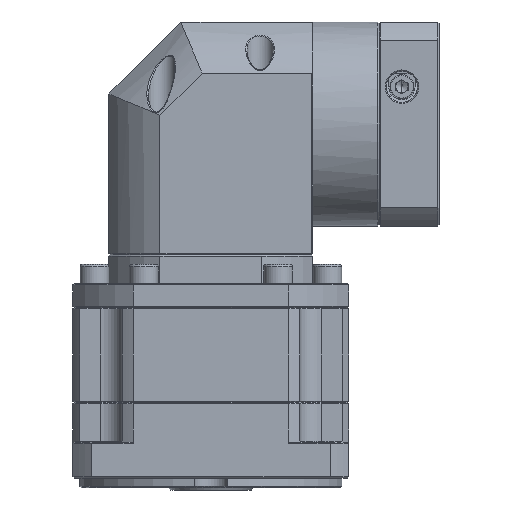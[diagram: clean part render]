
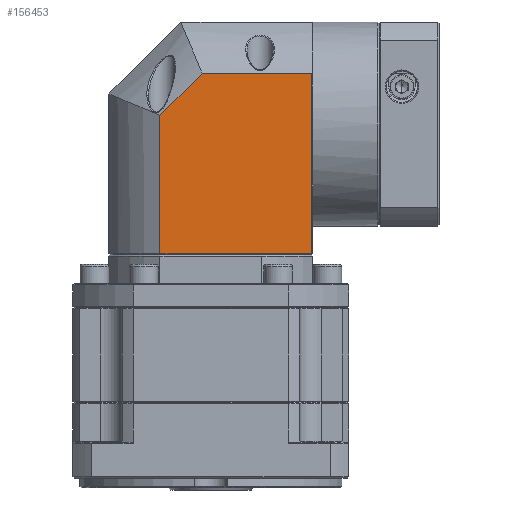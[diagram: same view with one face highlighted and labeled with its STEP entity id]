
A CAD part, front view. The second image highlights one B-rep face of the part: STEP entity #156453.
In plain terms, the highlighted planar face has unit normal (0, -1, 0).
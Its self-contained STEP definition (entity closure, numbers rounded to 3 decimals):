
#1443 = CARTESIAN_POINT ( 'NONE',  ( 72.073, 93.894, 18.254 ) ) ;
#3081 = VECTOR ( 'NONE', #16217, 1000. ) ;
#6217 = CARTESIAN_POINT ( 'NONE',  ( 72.073, 93.894, -78.246 ) ) ;
#6332 = CARTESIAN_POINT ( 'NONE',  ( 26.391, 93.894, -3.033 ) ) ;
#8247 = EDGE_LOOP ( 'NONE', ( #76891, #177473, #136437, #51229, #65505 ) ) ;
#14611 = DIRECTION ( 'NONE',  ( 0., 0., -1. ) ) ;
#16217 = DIRECTION ( 'NONE',  ( 1., 0., 0. ) ) ;
#21665 = CARTESIAN_POINT ( 'NONE',  ( 8.86, 93.894, -20.563 ) ) ;
#34703 = VECTOR ( 'NONE', #14611, 1000. ) ;
#35389 = DIRECTION ( 'NONE',  ( 0.707, 0., 0.707 ) ) ;
#37474 = VECTOR ( 'NONE', #115267, 1000. ) ;
#43766 = VECTOR ( 'NONE', #35389, 1000. ) ;
#46122 = LINE ( 'NONE', #100860, #37474 ) ;
#51229 = ORIENTED_EDGE ( 'NONE', *, *, #83301, .F. ) ;
#58060 = VERTEX_POINT ( 'NONE', #6217 ) ;
#60038 = VERTEX_POINT ( 'NONE', #132000 ) ;
#65505 = ORIENTED_EDGE ( 'NONE', *, *, #163062, .F. ) ;
#67858 = CARTESIAN_POINT ( 'NONE',  ( 72.073, 93.894, -3.033 ) ) ;
#71868 = VERTEX_POINT ( 'NONE', #6332 ) ;
#76891 = ORIENTED_EDGE ( 'NONE', *, *, #146324, .T. ) ;
#77769 = DIRECTION ( 'NONE',  ( 0., 1., 0. ) ) ;
#83301 = EDGE_CURVE ( 'NONE', #60038, #71868, #144761, .T. ) ;
#100860 = CARTESIAN_POINT ( 'NONE',  ( 72.573, 93.894, -78.246 ) ) ;
#112605 = LINE ( 'NONE', #153083, #3081 ) ;
#115267 = DIRECTION ( 'NONE',  ( 1., 0., 0. ) ) ;
#120731 = LINE ( 'NONE', #1443, #34703 ) ;
#120958 = EDGE_CURVE ( 'NONE', #71868, #157332, #112605, .T. ) ;
#122282 = FACE_OUTER_BOUND ( 'NONE', #8247, .T. ) ;
#124464 = CARTESIAN_POINT ( 'NONE',  ( 8.86, 93.894, -78.246 ) ) ;
#132000 = CARTESIAN_POINT ( 'NONE',  ( 8.86, 93.894, -20.563 ) ) ;
#133936 = AXIS2_PLACEMENT_3D ( 'NONE', #159933, #77769, #173764 ) ;
#136437 = ORIENTED_EDGE ( 'NONE', *, *, #120958, .F. ) ;
#138238 = LINE ( 'NONE', #170720, #174766 ) ;
#144761 = LINE ( 'NONE', #21665, #43766 ) ;
#146324 = EDGE_CURVE ( 'NONE', #153667, #58060, #46122, .T. ) ;
#153083 = CARTESIAN_POINT ( 'NONE',  ( 72.573, 93.894, -3.033 ) ) ;
#153667 = VERTEX_POINT ( 'NONE', #124464 ) ;
#156453 = ADVANCED_FACE ( 'NONE', ( #122282 ), #173167, .F. ) ;
#157332 = VERTEX_POINT ( 'NONE', #67858 ) ;
#158583 = DIRECTION ( 'NONE',  ( 0., 0., 1. ) ) ;
#159933 = CARTESIAN_POINT ( 'NONE',  ( 72.573, 93.894, 18.254 ) ) ;
#163062 = EDGE_CURVE ( 'NONE', #153667, #60038, #138238, .T. ) ;
#166192 = EDGE_CURVE ( 'NONE', #157332, #58060, #120731, .T. ) ;
#170720 = CARTESIAN_POINT ( 'NONE',  ( 8.86, 93.894, 18.254 ) ) ;
#173167 = PLANE ( 'NONE',  #133936 ) ;
#173764 = DIRECTION ( 'NONE',  ( -1., 0., 0. ) ) ;
#174766 = VECTOR ( 'NONE', #158583, 1000. ) ;
#177473 = ORIENTED_EDGE ( 'NONE', *, *, #166192, .F. ) ;
